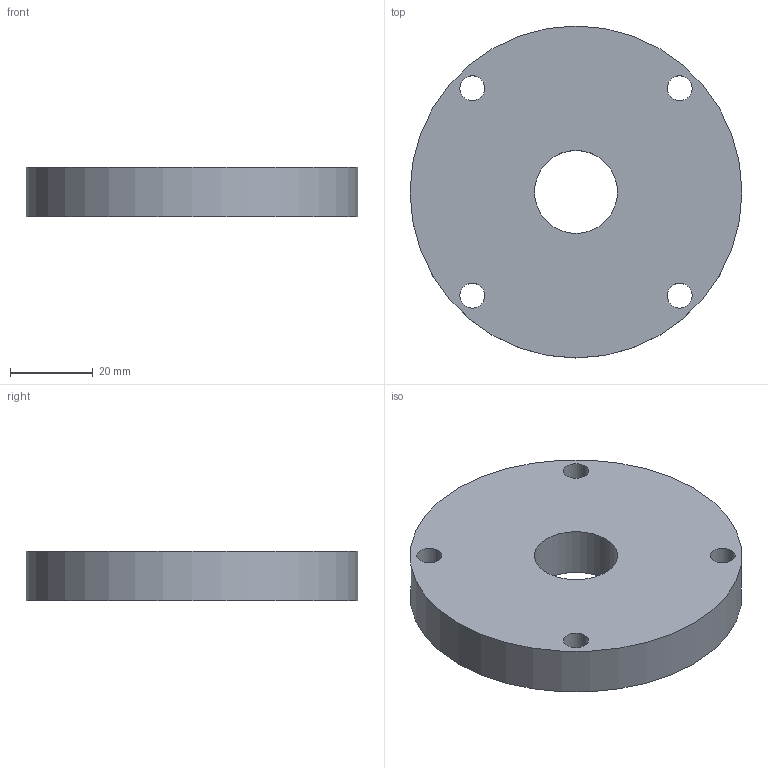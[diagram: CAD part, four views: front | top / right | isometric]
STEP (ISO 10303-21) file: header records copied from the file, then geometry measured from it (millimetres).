
FILE_DESCRIPTION(('Open CASCADE Model'),'2;1');
FILE_NAME('Open CASCADE Shape Model','1970-01-01T00:00:00',('Author'),( 'Open CASCADE'),'Open CASCADE STEP processor 8.0','Open CASCADE 8.0' ,'Unknown');
FILE_SCHEMA(('AP242_MANAGED_MODEL_BASED_3D_ENGINEERING_MIM_LF {1 0 10303 442 1 1 4 }' ));
Length unit declared in the file: millimetre
Products named in the file (1): Open CASCADE STEP translator 8.0 1
Bounding box: 80 x 80 x 12 mm (x, y, z)
Volume: 55191.5 mm3; surface area: 13873.3 mm2
Topology: 1 solids, 1 shells, 8 faces, 18 edges, 12 vertices
Faces by surface type: cylinder 6, plane 2
Full cylindrical faces by diameter (mm): 6 x4, 20 x1, 80 x1
Entity records: 498 total; most frequent: DIRECTION 84, CARTESIAN_POINT 75, ORIENTED_EDGE 36, PCURVE 36, DEFINITIONAL_REPRESENTATION 36, LINE 30, VECTOR 30, CIRCLE 24
